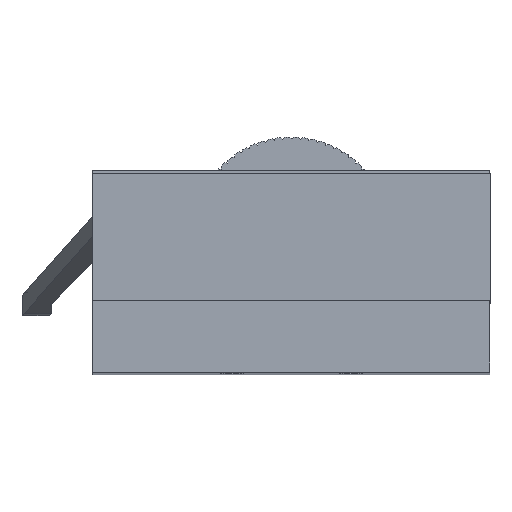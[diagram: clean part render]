
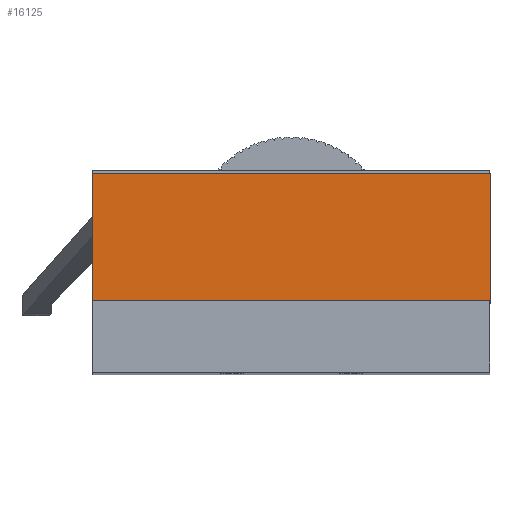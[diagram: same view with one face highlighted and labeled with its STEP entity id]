
A CAD part, top view. The second image highlights one B-rep face of the part: STEP entity #16125.
In plain terms, the highlighted planar face has unit normal (0, 0, 1).
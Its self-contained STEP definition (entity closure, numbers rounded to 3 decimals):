
#336 = CARTESIAN_POINT ( 'NONE',  ( 50., 41., 420. ) ) ;
#472 = DIRECTION ( 'NONE',  ( 0., -1., 0. ) ) ;
#600 = ORIENTED_EDGE ( 'NONE', *, *, #3509, .F. ) ;
#1057 = DIRECTION ( 'NONE',  ( 1., 0., 0. ) ) ;
#2098 = VECTOR ( 'NONE', #472, 1000. ) ;
#2874 = VECTOR ( 'NONE', #1057, 1000. ) ;
#3128 = EDGE_CURVE ( 'NONE', #3149, #3326, #9180, .T. ) ;
#3149 = VERTEX_POINT ( 'NONE', #10995 ) ;
#3190 = ORIENTED_EDGE ( 'NONE', *, *, #11198, .F. ) ;
#3326 = VERTEX_POINT ( 'NONE', #18484 ) ;
#3509 = EDGE_CURVE ( 'NONE', #13509, #15016, #25707, .T. ) ;
#3774 = CARTESIAN_POINT ( 'NONE',  ( 0., 25., 420. ) ) ;
#3823 = VECTOR ( 'NONE', #7005, 1000. ) ;
#4425 = EDGE_LOOP ( 'NONE', ( #600, #3190, #4481, #14468 ) ) ;
#4481 = ORIENTED_EDGE ( 'NONE', *, *, #3128, .F. ) ;
#4489 = AXIS2_PLACEMENT_3D ( 'NONE', #3774, #24883, #8066 ) ;
#6527 = DIRECTION ( 'NONE',  ( 0., 1., 0. ) ) ;
#7005 = DIRECTION ( 'NONE',  ( -1., 0., 0. ) ) ;
#8066 = DIRECTION ( 'NONE',  ( 0., -1., 0. ) ) ;
#9180 = LINE ( 'NONE', #336, #2098 ) ;
#10826 = CARTESIAN_POINT ( 'NONE',  ( -50., 41., 420. ) ) ;
#10995 = CARTESIAN_POINT ( 'NONE',  ( 50., 41., 420. ) ) ;
#11198 = EDGE_CURVE ( 'NONE', #3326, #13509, #19645, .T. ) ;
#11995 = CARTESIAN_POINT ( 'NONE',  ( 50., 41., 420. ) ) ;
#12101 = PLANE ( 'NONE',  #4489 ) ;
#13509 = VERTEX_POINT ( 'NONE', #19033 ) ;
#14468 = ORIENTED_EDGE ( 'NONE', *, *, #23561, .F. ) ;
#15016 = VERTEX_POINT ( 'NONE', #22898 ) ;
#15336 = CARTESIAN_POINT ( 'NONE',  ( 50., 9., 420. ) ) ;
#15894 = LINE ( 'NONE', #11995, #2874 ) ;
#16125 = ADVANCED_FACE ( 'NONE', ( #24747 ), #12101, .F. ) ;
#17617 = VECTOR ( 'NONE', #6527, 1000. ) ;
#18484 = CARTESIAN_POINT ( 'NONE',  ( 50., 9., 420. ) ) ;
#19033 = CARTESIAN_POINT ( 'NONE',  ( -50., 9., 420. ) ) ;
#19645 = LINE ( 'NONE', #15336, #3823 ) ;
#22898 = CARTESIAN_POINT ( 'NONE',  ( -50., 41., 420. ) ) ;
#23561 = EDGE_CURVE ( 'NONE', #15016, #3149, #15894, .T. ) ;
#24747 = FACE_OUTER_BOUND ( 'NONE', #4425, .T. ) ;
#24883 = DIRECTION ( 'NONE',  ( 0., 0., -1. ) ) ;
#25707 = LINE ( 'NONE', #10826, #17617 ) ;
